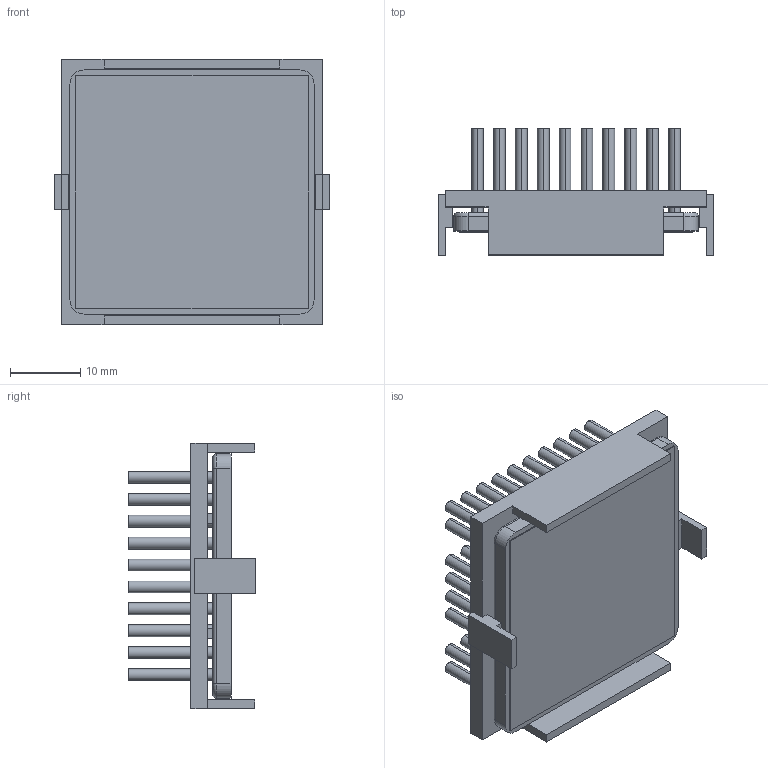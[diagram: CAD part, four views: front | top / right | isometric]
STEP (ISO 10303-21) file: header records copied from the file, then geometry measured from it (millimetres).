
FILE_DESCRIPTION (( 'STEP AP214' ), '1' );
FILE_NAME ('INM35002-15PCU-2.6Y.STEP', '2023-02-28T22:50:26', ( '' ), ( '' ), 'SwSTEP 2.0', 'SolidWorks 2020', '' );
FILE_SCHEMA (( 'AUTOMOTIVE_DESIGN' ));
Length unit declared in the file: inch
Products named in the file (1): INM35002-15PCU-2.6Y
Bounding box: 39.2 x 18.1 x 37.7 mm (x, y, z)
Volume: 7457.4 mm3; surface area: 13455.9 mm2
Topology: 3 solids, 3 shells, 358 faces, 772 edges, 512 vertices
Faces by surface type: cylinder 192, plane 162, torus 4
Entity records: 14600 total; most frequent: DIRECTION 1878, CARTESIAN_POINT 1643, ORIENTED_EDGE 1544, EDGE_CURVE 772, AXIS2_PLACEMENT_3D 747, VERTEX_POINT 512, EDGE_LOOP 452, CIRCLE 388
